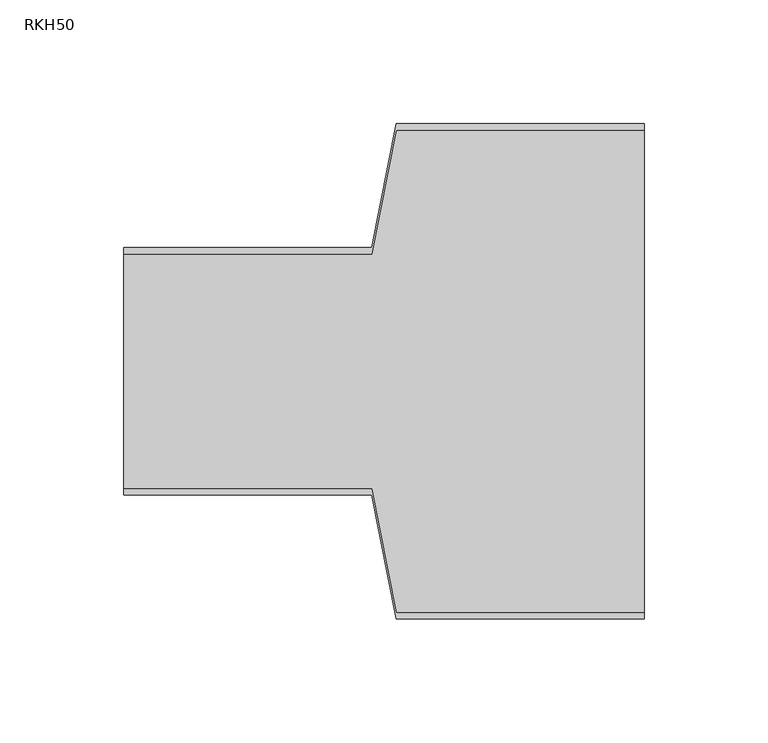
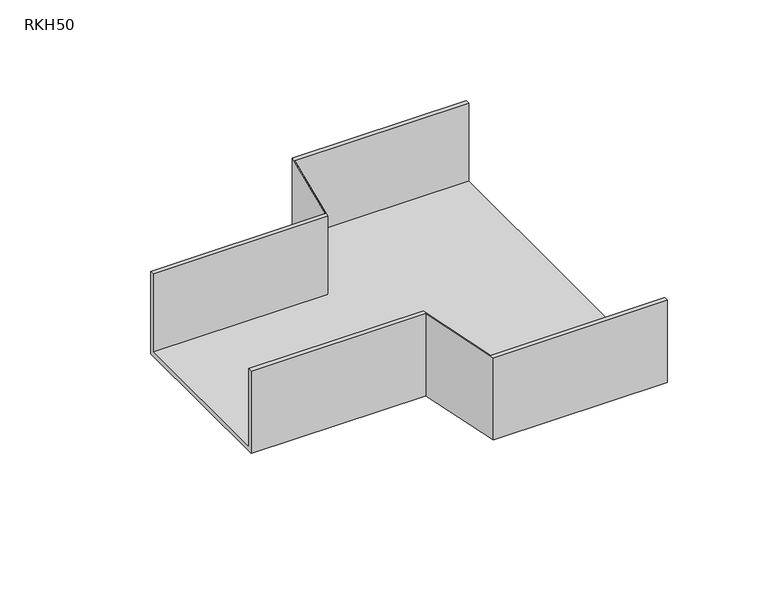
"""IFC4 building model written with IfcOpenShell, lengths in millimetres: cable carrier fitting geometry, BAKS_Reduction-angular_RK : RKH50."""

from ifc_helpers import new_model, si_unit, origin, place, context, project, spatial, faceted_brep, source, transform, mapped, element, save


def rkh50_498854c9(model_context):
    return source(origin(), model_context, "Body", "Brep", [
        faceted_brep([(0.0, -50.0, -25.0), (0.0, -50.0, 25.0), (0.0, -47.46, 25.0), (0.0, -47.46, -22.46), (0.0, 47.46, -22.46), (0.0, 47.46, 25.0), (0.0, 50.0, 25.0), (0.0, 50.0, -25.0), (210.0, -100.0, -25.0), (210.0, 100.0, -25.0), (210.0, 100.0, 25.0), (210.0, 97.46, 25.0), (210.0, 97.46, -22.46), (210.0, -97.46, -22.46), (210.0, -97.46, 25.0), (210.0, -100.0, 25.0), (100.0, -50.0, -25.0), (100.0, -50.0, 25.0), (110.0, -100.0, 25.0), (110.0, -97.46, 25.0), (100.0, -47.46, 25.0), (100.0, -47.46, -22.46), (110.0, -97.46, -22.46), (110.0, 97.46, -22.46), (100.0, 47.46, -22.46), (100.0, 47.46, 25.0), (110.0, 97.46, 25.0), (110.0, 100.0, 25.0), (100.0, 50.0, 25.0), (100.0, 50.0, -25.0), (110.0, 100.0, -25.0), (110.0, -100.0, -25.0)], [[[0, 1, 2, 3, 4, 5, 6, 7]], [[8, 9, 10, 11, 12, 13, 14, 15]], [[1, 0, 16, 17]], [[2, 1, 17, 18, 15, 14, 19, 20]], [[3, 2, 20, 21]], [[4, 3, 21, 22, 13, 12, 23, 24]], [[5, 4, 24, 25]], [[6, 5, 25, 26, 11, 10, 27, 28]], [[7, 6, 28, 29]], [[0, 7, 29, 30, 9, 8, 31, 16]], [[8, 15, 18, 31]], [[14, 13, 22, 19]], [[12, 11, 26, 23]], [[10, 9, 30, 27]], [[30, 29, 28, 27]], [[26, 25, 24, 23]], [[22, 21, 20, 19]], [[16, 31, 18, 17]]]),
    ])


if __name__ == "__main__":
    model = new_model("IFC4")
    model_context = context("Model", 3, world=origin())
    ifc_project = project(units=[si_unit("LENGTHUNIT", "METRE", prefix="MILLI")], contexts=[model_context])
    site = spatial("IfcSite", under=ifc_project)
    building = spatial("IfcBuilding", under=site)
    placement = place(None, origin())
    rkh50_shape = rkh50_498854c9(model_context)
    element("IfcCableCarrierFitting", 1, ObjectType="BAKS_Reduction-angular_RK : RKH50", at=placement, inside=building, context=model_context, shape_type="MappedRepresentation", body=[
        mapped(rkh50_shape, transform((0.0, 0.0, 0.0), x_axis=(1.0, 0.0, 0.0), y_axis=(0.0, 1.0, 0.0), z_axis=(0.0, 0.0, 1.0))),
    ])
    save(model, "model.ifc")
